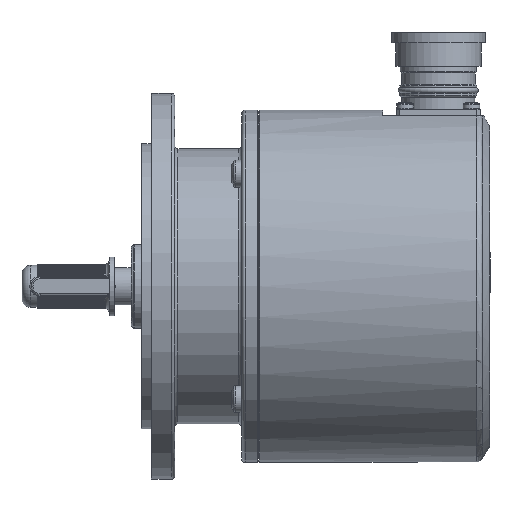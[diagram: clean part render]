
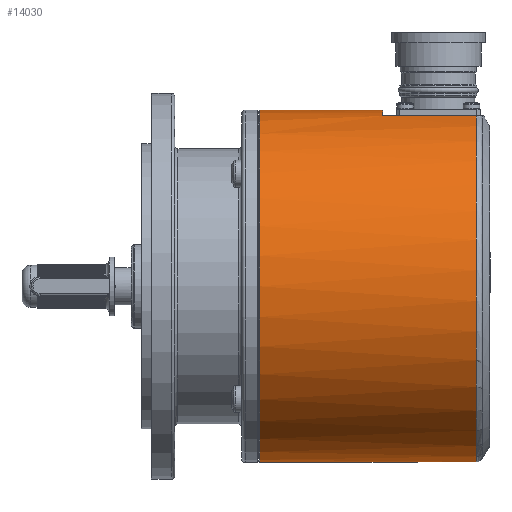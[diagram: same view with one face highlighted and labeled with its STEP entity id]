
A CAD part, front view. The second image highlights one B-rep face of the part: STEP entity #14030.
In plain terms, the highlighted cylindrical face has radius 52.5 mm (diameter 105 mm), a full revolution.
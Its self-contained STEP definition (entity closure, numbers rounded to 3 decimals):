
#558=FACE_BOUND('',#2555,.T.);
#1375=CYLINDRICAL_SURFACE('',#14946,52.5);
#1657=FACE_OUTER_BOUND('',#2554,.T.);
#2554=EDGE_LOOP('',(#9628,#9629,#9630,#9631));
#2555=EDGE_LOOP('',(#9632));
#3765=CIRCLE('',#14945,52.5);
#3766=CIRCLE('',#14947,52.5);
#3767=CIRCLE('',#14948,52.5);
#4395=LINE('',#20141,#5289);
#4396=LINE('',#20145,#5290);
#5289=VECTOR('',#16370,27.959);
#5290=VECTOR('',#16373,27.959);
#6188=VERTEX_POINT('',#20136);
#6189=VERTEX_POINT('',#20139);
#6190=VERTEX_POINT('',#20140);
#6191=VERTEX_POINT('',#20142);
#6192=VERTEX_POINT('',#20144);
#7597=EDGE_CURVE('',#6188,#6188,#3765,.T.);
#7598=EDGE_CURVE('',#6189,#6190,#4395,.T.);
#7599=EDGE_CURVE('',#6191,#6190,#3766,.T.);
#7600=EDGE_CURVE('',#6191,#6192,#4396,.T.);
#7601=EDGE_CURVE('',#6192,#6189,#3767,.T.);
#9628=ORIENTED_EDGE('',*,*,#7598,.T.);
#9629=ORIENTED_EDGE('',*,*,#7599,.F.);
#9630=ORIENTED_EDGE('',*,*,#7600,.T.);
#9631=ORIENTED_EDGE('',*,*,#7601,.T.);
#9632=ORIENTED_EDGE('',*,*,#7597,.F.);
#14030=ADVANCED_FACE('',(#1657,#558),#1375,.T.);
#14945=AXIS2_PLACEMENT_3D('',#20137,#16366,#16367);
#14946=AXIS2_PLACEMENT_3D('',#20138,#16368,#16369);
#14947=AXIS2_PLACEMENT_3D('',#20143,#16371,#16372);
#14948=AXIS2_PLACEMENT_3D('',#20146,#16374,#16375);
#16366=DIRECTION('center_axis',(-1.,0.,0.));
#16367=DIRECTION('ref_axis',(0.,-1.,0.));
#16368=DIRECTION('center_axis',(1.,0.,0.));
#16369=DIRECTION('ref_axis',(0.,1.,0.));
#16370=DIRECTION('',(1.,0.,0.));
#16371=DIRECTION('center_axis',(1.,0.,0.));
#16372=DIRECTION('ref_axis',(0.,0.,-1.));
#16373=DIRECTION('',(-1.,0.,0.));
#16374=DIRECTION('center_axis',(-1.,0.,0.));
#16375=DIRECTION('ref_axis',(0.,1.,0.));
#20136=CARTESIAN_POINT('',(0.3,52.5,0.));
#20137=CARTESIAN_POINT('Origin',(0.3,0.,0.));
#20138=CARTESIAN_POINT('Origin',(32.479,0.,0.));
#20139=CARTESIAN_POINT('',(37.,50.8,-13.252));
#20140=CARTESIAN_POINT('',(64.959,50.8,-13.252));
#20141=CARTESIAN_POINT('',(32.479,50.8,-13.252));
#20142=CARTESIAN_POINT('',(64.959,50.8,13.252));
#20143=CARTESIAN_POINT('Origin',(64.959,0.,0.));
#20144=CARTESIAN_POINT('',(37.,50.8,13.252));
#20145=CARTESIAN_POINT('',(32.479,50.8,13.252));
#20146=CARTESIAN_POINT('Origin',(37.,0.,0.));
